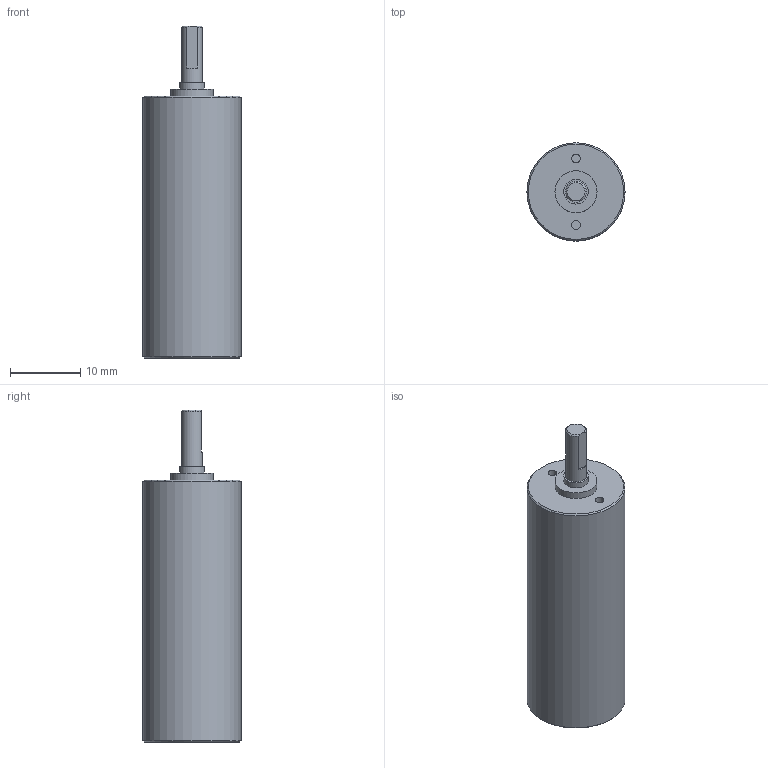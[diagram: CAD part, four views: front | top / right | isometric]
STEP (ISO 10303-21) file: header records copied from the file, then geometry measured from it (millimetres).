
FILE_DESCRIPTION(/* description */ (''),/* implementation_level */ '2;1');
FILE_NAME(/* name */ '14-1_5.stp',/* time_stamp */ '2016-08-24T13:46:32+02:00',/* author */ ('DR. FRITZ FAULHABER GmbH & Co. KG'),/* organization */ ('DR. FRITZ FAULHABER GmbH & Co. KG'),/* preprocessor_version */ 'ST-DEVELOPER v16',/* originating_system */ 'SIEMENS PLM Software NX 10.0',/* authorisation */ '');
FILE_SCHEMA (('AUTOMOTIVE_DESIGN { 1 0 10303 214 3 1 1 1 }'));
Length unit declared in the file: millimetre
Products named in the file (1): H00000258_A
Bounding box: 14 x 14 x 47.4 mm (x, y, z)
Volume: 4803.1 mm3; surface area: 2474.1 mm2
Topology: 1 solids, 1 shells, 22 faces, 38 edges, 25 vertices
Faces by surface type: plane 11, cylinder 8, cone 3
Full cylindrical faces by diameter (mm): 1.25 x2, 3 x1, 3.5 x1, 6 x2, 13 x1, 14 x1
Entity records: 483 total; most frequent: DIRECTION 89, CARTESIAN_POINT 76, ORIENTED_EDGE 50, AXIS2_PLACEMENT_3D 43, EDGE_LOOP 39, FACE_BOUND 32, EDGE_CURVE 25, ADVANCED_FACE 22
